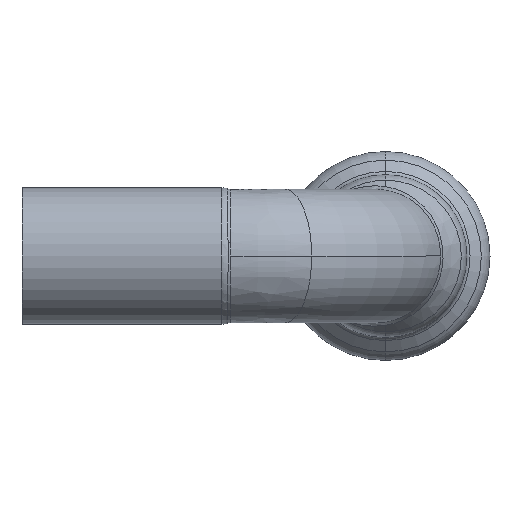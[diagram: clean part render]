
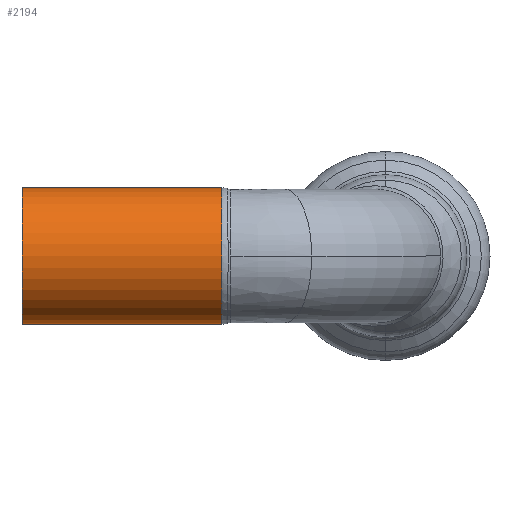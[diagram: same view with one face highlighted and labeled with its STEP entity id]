
A CAD part, left-side view. The second image highlights one B-rep face of the part: STEP entity #2194.
In plain terms, the highlighted cylindrical face has radius 7.5 mm (diameter 15 mm), a partial arc.
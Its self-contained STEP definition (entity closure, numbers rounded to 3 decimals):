
#225 = FACE_OUTER_BOUND ( 'NONE', #2836, .T. ) ;
#339 = EDGE_CURVE ( 'NONE', #3343, #2787, #2681, .T. ) ;
#516 = DIRECTION ( 'NONE',  ( 0., 1., 0. ) ) ;
#656 = VECTOR ( 'NONE', #979, 1000. ) ;
#659 = VECTOR ( 'NONE', #2184, 1000. ) ;
#773 = ORIENTED_EDGE ( 'NONE', *, *, #1786, .F. ) ;
#829 = EDGE_CURVE ( 'NONE', #3343, #2120, #1358, .T. ) ;
#911 = CIRCLE ( 'NONE', #3132, 7.5 ) ;
#966 = DIRECTION ( 'NONE',  ( 0., 0., 1. ) ) ;
#979 = DIRECTION ( 'NONE',  ( 0., 1., 0. ) ) ;
#980 = AXIS2_PLACEMENT_3D ( 'NONE', #1221, #2320, #2597 ) ;
#1113 = CYLINDRICAL_SURFACE ( 'NONE', #980, 7.5 ) ;
#1162 = ORIENTED_EDGE ( 'NONE', *, *, #829, .F. ) ;
#1221 = CARTESIAN_POINT ( 'NONE',  ( 0., 75.103, 0. ) ) ;
#1270 = LINE ( 'NONE', #2462, #659 ) ;
#1358 = LINE ( 'NONE', #2881, #656 ) ;
#1701 = ORIENTED_EDGE ( 'NONE', *, *, #339, .T. ) ;
#1786 = EDGE_CURVE ( 'NONE', #2120, #2768, #911, .T. ) ;
#1820 = CARTESIAN_POINT ( 'NONE',  ( 0., 18., 0. ) ) ;
#1954 = EDGE_CURVE ( 'NONE', #2787, #2768, #1270, .T. ) ;
#2120 = VERTEX_POINT ( 'NONE', #3269 ) ;
#2130 = CARTESIAN_POINT ( 'NONE',  ( 0., 40., 0. ) ) ;
#2137 = CARTESIAN_POINT ( 'NONE',  ( 0., 40., 7.5 ) ) ;
#2184 = DIRECTION ( 'NONE',  ( 0., 1., 0. ) ) ;
#2194 = ADVANCED_FACE ( 'NONE', ( #225 ), #1113, .T. ) ;
#2320 = DIRECTION ( 'NONE',  ( 0., 1., 0. ) ) ;
#2411 = DIRECTION ( 'NONE',  ( 0., 0., 1. ) ) ;
#2462 = CARTESIAN_POINT ( 'NONE',  ( 0., 75.103, 7.5 ) ) ;
#2597 = DIRECTION ( 'NONE',  ( 0., 0., 1. ) ) ;
#2681 = CIRCLE ( 'NONE', #2919, 7.5 ) ;
#2768 = VERTEX_POINT ( 'NONE', #2137 ) ;
#2787 = VERTEX_POINT ( 'NONE', #3524 ) ;
#2825 = ORIENTED_EDGE ( 'NONE', *, *, #1954, .T. ) ;
#2836 = EDGE_LOOP ( 'NONE', ( #1162, #1701, #2825, #773 ) ) ;
#2881 = CARTESIAN_POINT ( 'NONE',  ( 0., 75.103, -7.5 ) ) ;
#2919 = AXIS2_PLACEMENT_3D ( 'NONE', #1820, #3144, #966 ) ;
#2955 = CARTESIAN_POINT ( 'NONE',  ( 0., 18., -7.5 ) ) ;
#3132 = AXIS2_PLACEMENT_3D ( 'NONE', #2130, #516, #2411 ) ;
#3144 = DIRECTION ( 'NONE',  ( 0., 1., 0. ) ) ;
#3269 = CARTESIAN_POINT ( 'NONE',  ( 0., 40., -7.5 ) ) ;
#3343 = VERTEX_POINT ( 'NONE', #2955 ) ;
#3524 = CARTESIAN_POINT ( 'NONE',  ( 0., 18., 7.5 ) ) ;
